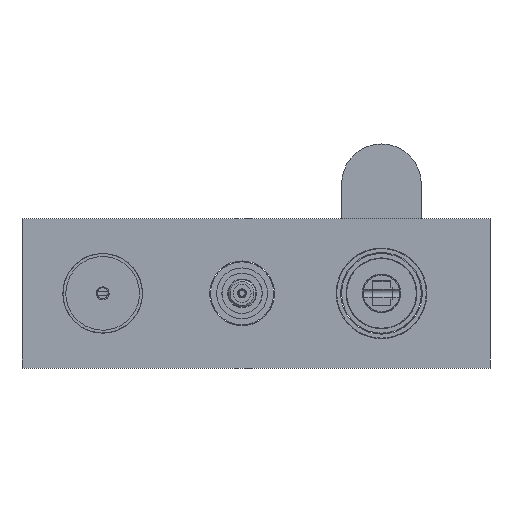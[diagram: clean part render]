
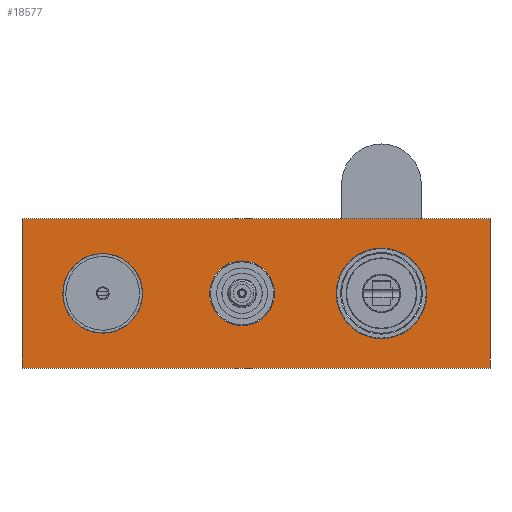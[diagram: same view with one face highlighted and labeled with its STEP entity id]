
A CAD part, front view. The second image highlights one B-rep face of the part: STEP entity #18577.
In plain terms, the highlighted planar face has unit normal (0, -1, 0).
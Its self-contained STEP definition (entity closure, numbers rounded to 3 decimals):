
#14696=DIRECTION('',(-1.,0.,0.));
#14697=VECTOR('',#14696,235.);
#14698=CARTESIAN_POINT('',(54.5,-10.,-37.5));
#14699=LINE('',#14698,#14697);
#14700=DIRECTION('',(0.,0.,1.));
#14701=VECTOR('',#14700,75.);
#14702=CARTESIAN_POINT('',(-180.5,-10.,-37.5));
#14703=LINE('',#14702,#14701);
#14704=DIRECTION('',(1.,0.,0.));
#14705=VECTOR('',#14704,235.);
#14706=CARTESIAN_POINT('',(-180.5,-10.,37.5));
#14707=LINE('',#14706,#14705);
#14708=DIRECTION('',(0.,0.,-1.));
#14709=VECTOR('',#14708,75.);
#14710=CARTESIAN_POINT('',(54.5,-10.,37.5));
#14711=LINE('',#14710,#14709);
#14712=CARTESIAN_POINT('',(-70.,-10.,0.));
#14713=DIRECTION('',(0.,1.,0.));
#14714=DIRECTION('',(0.,0.,1.));
#14715=AXIS2_PLACEMENT_3D('',#14712,#14713,#14714);
#14717=CARTESIAN_POINT('',(-70.,-10.,0.));
#14718=DIRECTION('',(0.,1.,0.));
#14719=DIRECTION('',(0.,0.,-1.));
#14720=AXIS2_PLACEMENT_3D('',#14717,#14718,#14719);
#14722=CARTESIAN_POINT('',(0.,-10.,0.));
#14723=DIRECTION('',(0.,1.,0.));
#14724=DIRECTION('',(0.,0.,1.));
#14725=AXIS2_PLACEMENT_3D('',#14722,#14723,#14724);
#14727=CARTESIAN_POINT('',(0.,-10.,0.));
#14728=DIRECTION('',(0.,1.,0.));
#14729=DIRECTION('',(0.,0.,-1.));
#14730=AXIS2_PLACEMENT_3D('',#14727,#14728,#14729);
#14732=CARTESIAN_POINT('',(-140.,-10.,0.));
#14733=DIRECTION('',(0.,1.,0.));
#14734=DIRECTION('',(1.,0.,0.));
#14735=AXIS2_PLACEMENT_3D('',#14732,#14733,#14734);
#14737=CARTESIAN_POINT('',(-140.,-10.,0.));
#14738=DIRECTION('',(0.,1.,0.));
#14739=DIRECTION('',(-1.,0.,0.));
#14740=AXIS2_PLACEMENT_3D('',#14737,#14738,#14739);
#16004=CARTESIAN_POINT('',(54.5,-10.,-37.5));
#16005=CARTESIAN_POINT('',(-180.5,-10.,-37.5));
#16006=VERTEX_POINT('',#16004);
#16007=VERTEX_POINT('',#16005);
#16008=CARTESIAN_POINT('',(-180.5,-10.,37.5));
#16009=VERTEX_POINT('',#16008);
#16010=CARTESIAN_POINT('',(54.5,-10.,37.5));
#16011=VERTEX_POINT('',#16010);
#16020=CARTESIAN_POINT('',(-70.,-10.,16.25));
#16021=CARTESIAN_POINT('',(-70.,-10.,-16.25));
#16022=VERTEX_POINT('',#16020);
#16023=VERTEX_POINT('',#16021);
#16024=CARTESIAN_POINT('',(0.,-10.,22.75));
#16025=CARTESIAN_POINT('',(0.,-10.,-22.75));
#16026=VERTEX_POINT('',#16024);
#16027=VERTEX_POINT('',#16025);
#16036=CARTESIAN_POINT('',(-120.,-10.,0.));
#16037=CARTESIAN_POINT('',(-160.,-10.,0.));
#16038=VERTEX_POINT('',#16036);
#16039=VERTEX_POINT('',#16037);
#18545=CARTESIAN_POINT('',(-63.,-10.,0.));
#18546=DIRECTION('',(0.,1.,0.));
#18547=DIRECTION('',(0.,0.,1.));
#18548=AXIS2_PLACEMENT_3D('',#18545,#18546,#18547);
#18549=PLANE('',#18548);
#18550=ORIENTED_EDGE('',*,*,#18535,.T.);
#18552=ORIENTED_EDGE('',*,*,#18551,.T.);
#18554=ORIENTED_EDGE('',*,*,#18553,.T.);
#18556=ORIENTED_EDGE('',*,*,#18555,.T.);
#18557=EDGE_LOOP('',(#18550,#18552,#18554,#18556));
#18558=FACE_OUTER_BOUND('',#18557,.F.);
#18560=ORIENTED_EDGE('',*,*,#18559,.F.);
#18562=ORIENTED_EDGE('',*,*,#18561,.F.);
#18563=EDGE_LOOP('',(#18560,#18562));
#18564=FACE_BOUND('',#18563,.F.);
#18566=ORIENTED_EDGE('',*,*,#18565,.F.);
#18568=ORIENTED_EDGE('',*,*,#18567,.F.);
#18569=EDGE_LOOP('',(#18566,#18568));
#18570=FACE_BOUND('',#18569,.F.);
#18572=ORIENTED_EDGE('',*,*,#18571,.F.);
#18574=ORIENTED_EDGE('',*,*,#18573,.F.);
#18575=EDGE_LOOP('',(#18572,#18574));
#18576=FACE_BOUND('',#18575,.F.);
#18577=ADVANCED_FACE('',(#18558,#18564,#18570,#18576),#18549,.F.);
#14716=CIRCLE('',#14715,16.25);
#14721=CIRCLE('',#14720,16.25);
#14726=CIRCLE('',#14725,22.75);
#14731=CIRCLE('',#14730,22.75);
#14736=CIRCLE('',#14735,20.);
#14741=CIRCLE('',#14740,20.);
#18535=EDGE_CURVE('',#16006,#16007,#14699,.T.);
#18551=EDGE_CURVE('',#16007,#16009,#14703,.T.);
#18553=EDGE_CURVE('',#16009,#16011,#14707,.T.);
#18555=EDGE_CURVE('',#16011,#16006,#14711,.T.);
#18559=EDGE_CURVE('',#16022,#16023,#14716,.T.);
#18561=EDGE_CURVE('',#16023,#16022,#14721,.T.);
#18565=EDGE_CURVE('',#16026,#16027,#14726,.T.);
#18567=EDGE_CURVE('',#16027,#16026,#14731,.T.);
#18571=EDGE_CURVE('',#16038,#16039,#14736,.T.);
#18573=EDGE_CURVE('',#16039,#16038,#14741,.T.);
